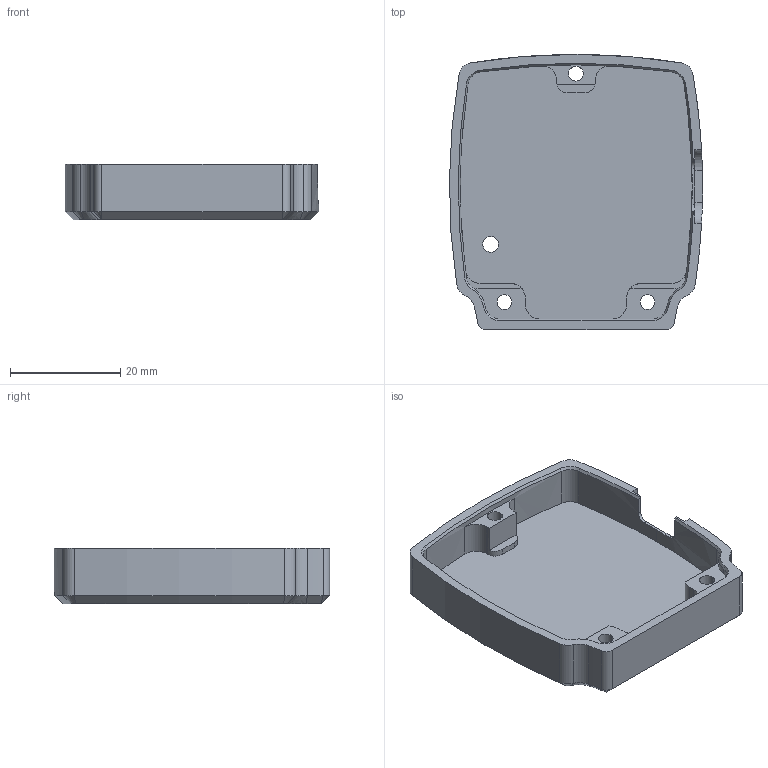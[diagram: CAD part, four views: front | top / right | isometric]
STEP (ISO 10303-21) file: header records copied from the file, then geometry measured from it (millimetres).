
FILE_DESCRIPTION (( 'STEP AP203' ), '1' );
FILE_NAME ('USB3-LE-AF_Rückteil.STEP', '2019-04-09T14:25:44', ( '' ), ( '' ), 'SwSTEP 2.0', 'SolidWorks 2018', '' );
FILE_SCHEMA (( 'CONFIG_CONTROL_DESIGN' ));
Length unit declared in the file: millimetre
Products named in the file (1): USB3-LE-AF_Rückteil
Bounding box: 45.99 x 50 x 10.1 mm (x, y, z)
Volume: 7931.3 mm3; surface area: 7313.1 mm2
Topology: 1 solids, 1 shells, 122 faces, 320 edges, 201 vertices
Faces by surface type: cylinder 57, plane 36, cone 29
Entity records: 3920 total; most frequent: CARTESIAN_POINT 716, DIRECTION 707, ORIENTED_EDGE 636, EDGE_CURVE 318, AXIS2_PLACEMENT_3D 274, VERTEX_POINT 201, LINE 159, VECTOR 159
